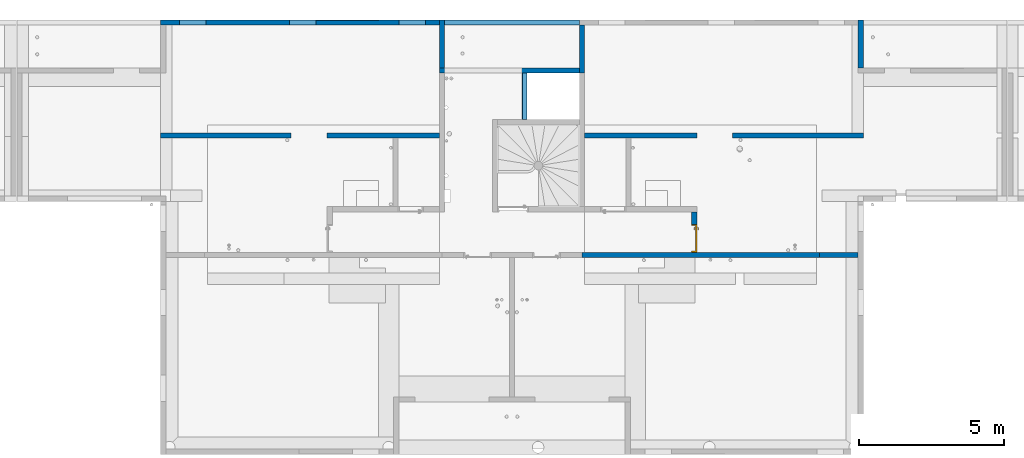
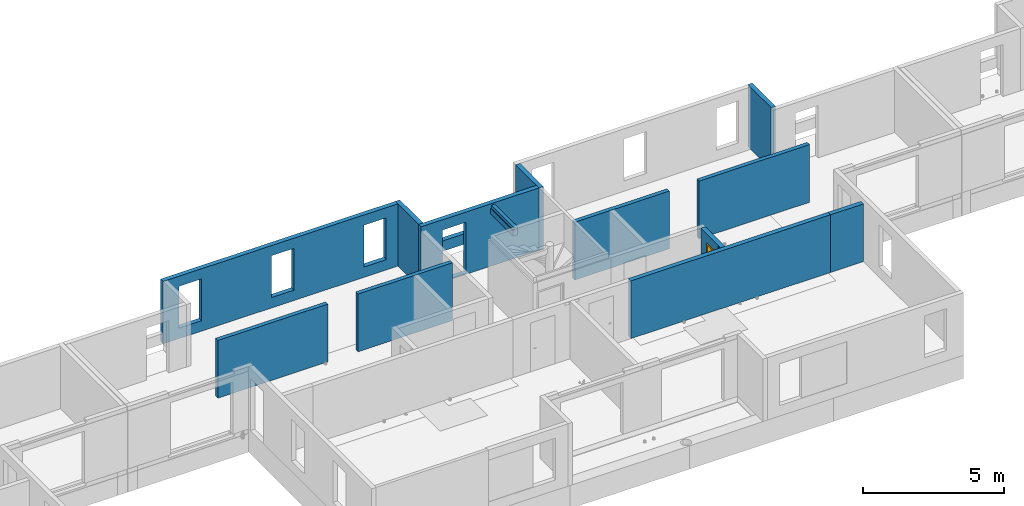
# One storey, part 12 of 34: 14 walls, 1 door, 10 openings.
"""IFC2X3 building model written with IfcOpenShell, lengths in centimetres."""

import ifcopenshell
import ifcopenshell.guid

model = None  # the IFC model being written
_history = None  # IfcOwnerHistory: only IFC2X3 demands one
_inside = {}  # id of a spatial element -> (the spatial element, [elements in it])
_under = {}  # id of a project, library or spatial element -> (it, [spatial elements below it])
_declared = {}  # id of a project -> (the project, [libraries it declares])
_typed = {}  # id of a type object -> (the type object, [elements of that type])
_made_of = {}  # id of a material, layer set ... -> (it, [elements and type objects made of it])


def new_model(schema):
    """Start an empty IFC model of exactly this schema.

    Asked for "IFC4X3", IfcOpenShell would pick the latest addendum, in which some entities
    have other attributes; the version numbers below select the first issue.
    IFC2X3 requires an IfcOwnerHistory on every rooted entity: one is made here for all.
    """
    global model, _history
    if schema == "IFC4X3":
        model = ifcopenshell.file(schema_version=(4, 3, 0, 0))
    else:
        model = ifcopenshell.file(schema=schema)
    _inside.clear()
    _under.clear()
    _declared.clear()
    _typed.clear()
    _made_of.clear()
    _history = None
    if model.schema == "IFC2X3":
        org = make("IfcOrganization", Name="unknown")
        user = make(
            "IfcPersonAndOrganization",
            ThePerson=make("IfcPerson", FamilyName="unknown"),
            TheOrganization=org,
        )
        app = make(
            "IfcApplication",
            ApplicationDeveloper=org,
            Version="unknown",
            ApplicationFullName="unknown",
            ApplicationIdentifier="unknown",
        )
        _history = make(
            "IfcOwnerHistory",
            OwningUser=user,
            OwningApplication=app,
            ChangeAction="ADDED",
            CreationDate=0,
        )
    return model


def make(cls, **values):
    """One entity of the class cls with the attributes given. An attribute that is None is left unset."""
    return model.create_entity(
        cls, **{name: value for name, value in values.items() if value is not None}
    )


def entity(cls, *values):
    """Any entity or typed value of the class cls, its attributes in the order of the schema. None: left unset."""
    e = model.create_entity(cls)
    for i, value in enumerate(values):
        if value is not None:
            e[i] = value
    return e


def rooted(cls, **values):
    """An entity with a GlobalId (a new one), such as an element, a storey or a relation."""
    return make(cls, GlobalId=ifcopenshell.guid.new(), OwnerHistory=_history, **values)


def si_unit(unit_type, name, prefix=None):
    """IfcSIUnit, for example si_unit("LENGTHUNIT", "METRE", prefix="MILLI")."""
    return make("IfcSIUnit", UnitType=unit_type, Prefix=prefix, Name=name)


def converted_unit(unit_type, name, factor, base, dimensions=None, offset=None):
    """IfcConversionBasedUnit, such as the inch: factor (a typed value) times the base unit."""
    return make(
        "IfcConversionBasedUnit"
        if offset is None
        else "IfcConversionBasedUnitWithOffset",
        ConversionOffset=offset,
        Dimensions=None
        if dimensions is None
        else entity("IfcDimensionalExponents", *dimensions),
        UnitType=unit_type,
        Name=name,
        ConversionFactor=make(
            "IfcMeasureWithUnit", ValueComponent=factor, UnitComponent=base
        ),
    )


def derived_unit(unit_type, elements):
    """IfcDerivedUnit: a product of units, each with its exponent."""
    return make(
        "IfcDerivedUnit",
        Elements=[
            make("IfcDerivedUnitElement", Unit=unit, Exponent=power)
            for unit, power in elements
        ],
        UnitType=unit_type,
    )


def assignment(units):
    """IfcUnitAssignment: the units of a project."""
    return None if units is None else make("IfcUnitAssignment", Units=units)


def point(xyz):
    """IfcCartesianPoint."""
    return None if xyz is None else make("IfcCartesianPoint", Coordinates=xyz)


def direction(xyz):
    """IfcDirection."""
    return None if xyz is None else make("IfcDirection", DirectionRatios=xyz)


def frame(location, z_axis=None, x_axis=None):
    """IfcAxis2Placement3D, a coordinate frame: its origin and axes. An axis left out is left unset."""
    return make(
        "IfcAxis2Placement3D",
        Location=point(location),
        Axis=direction(z_axis),
        RefDirection=direction(x_axis),
    )


def frame_2d(location, x_axis=None):
    """IfcAxis2Placement2D, a coordinate frame in the plane: its origin and x axis."""
    return make(
        "IfcAxis2Placement2D", Location=point(location), RefDirection=direction(x_axis)
    )


def origin():
    """The frame at (0, 0, 0) with its axes left unset."""
    return frame((0.0, 0.0, 0.0))


def place(relative_to, where):
    """IfcLocalPlacement: puts the frame where relative to a parent placement (None: the world)."""
    return make(
        "IfcLocalPlacement", PlacementRelTo=relative_to, RelativePlacement=where
    )


def context(
    kind, dimensions, precision=None, world=None, true_north=None, identifier=None
):
    """IfcGeometricRepresentationContext, for example the 3D "Model" context."""
    return make(
        "IfcGeometricRepresentationContext",
        ContextIdentifier=identifier,
        ContextType=kind,
        CoordinateSpaceDimension=dimensions,
        Precision=precision,
        WorldCoordinateSystem=world,
        TrueNorth=true_north,
    )


def subcontext(parent, identifier, kind, view, scale=None):
    """IfcGeometricRepresentationSubContext, for example "Body" below "Model"."""
    return make(
        "IfcGeometricRepresentationSubContext",
        ContextIdentifier=identifier,
        ContextType=kind,
        ParentContext=parent,
        TargetScale=scale,
        TargetView=view,
    )


def project(units=None, contexts=None):
    """IfcProject with its units and contexts."""
    return rooted(
        "IfcProject",
        Name="project",
        RepresentationContexts=contexts,
        UnitsInContext=assignment(units),
    )


def spatial(cls, under=None, at=None, **own):
    """A site, building, storey or space (cls), placed at a placement, below another one or the project."""
    s = rooted(cls, ObjectPlacement=at, **own)
    if under is not None:
        _under.setdefault(under.id(), (under, []))[1].append(s)
    return s


def polyline(points):
    """IfcPolyline through the points."""
    return make("IfcPolyline", Points=[point(p) for p in points])


def profile(cls, at=None, kind="AREA", **sizes):
    """A parametric profile (cls). Its sizes go by their IFC names, for example OverallWidth=200.0."""
    return make(cls, ProfileType=kind, Position=at, **sizes)


def rectangle(**sizes):
    """IfcRectangleProfileDef."""
    return profile("IfcRectangleProfileDef", **sizes)


def extrude(swept, where, along, depth):
    """IfcExtrudedAreaSolid: the profile swept, set in the frame where, extruded along a direction by depth."""
    return make(
        "IfcExtrudedAreaSolid",
        SweptArea=swept,
        Position=where,
        ExtrudedDirection=direction(along),
        Depth=depth,
    )


def clip(a, b, op="DIFFERENCE"):
    """IfcBooleanClippingResult: the solid a cut by the half space b."""
    return make(
        "IfcBooleanClippingResult", Operator=op, FirstOperand=a, SecondOperand=b
    )


def bounded_halfspace(plane, agree, where, boundary):
    """IfcPolygonalBoundedHalfSpace: a half space limited to a polygon's prism."""
    return make(
        "IfcPolygonalBoundedHalfSpace",
        BaseSurface=make("IfcPlane", Position=plane),
        AgreementFlag=agree,
        Position=where,
        PolygonalBoundary=boundary,
    )


def faces_of(points, faces, orient=None, outer=None):
    """IfcFace entities. A face is a list of loops; a loop is a list of indices into points, from 0.

    orient and outer hold one flag for each loop. By default every Orientation is true, the
    first loop of a face is its IfcFaceOuterBound and the others are IfcFaceBound.
    """
    made = []
    for i, loops in enumerate(faces):
        bounds = []
        for j, loop in enumerate(loops):
            is_outer = j == 0 if outer is None else outer[i][j]
            bounds.append(
                make(
                    "IfcFaceOuterBound" if is_outer else "IfcFaceBound",
                    Bound=make("IfcPolyLoop", Polygon=[points[k] for k in loop]),
                    Orientation=True if orient is None else orient[i][j],
                )
            )
        made.append(make("IfcFace", Bounds=bounds))
    return made


def faceted_brep(points, faces, orient=None, outer=None, voids=None):
    """IfcFacetedBrep: a solid bounded by flat faces; with voids (closed shells), ...WithVoids."""
    shared = [point(p) for p in points]
    hull = make("IfcClosedShell", CfsFaces=faces_of(shared, faces, orient, outer))
    if voids is None:
        return make("IfcFacetedBrep", Outer=hull)
    return make(
        "IfcFacetedBrepWithVoids",
        Outer=hull,
        Voids=[
            make(cls, CfsFaces=faces_of(shared, fs, o, b)) for cls, fs, o, b in voids
        ],
    )


def shape(context_of_items, identifier, shape_type, items):
    """IfcShapeRepresentation: the items that make up one representation, for example the "Body"."""
    return make(
        "IfcShapeRepresentation",
        ContextOfItems=context_of_items,
        RepresentationIdentifier=identifier,
        RepresentationType=shape_type,
        Items=items,
    )


def source(mapping_origin, context_of_items, identifier, shape_type, items):
    """IfcRepresentationMap: a shape defined once, which mapped items show again and again."""
    return make(
        "IfcRepresentationMap",
        MappingOrigin=mapping_origin,
        MappedRepresentation=shape(context_of_items, identifier, shape_type, items),
    )


def transform(
    local_origin,
    x_axis=None,
    y_axis=None,
    z_axis=None,
    scale=None,
    scale2=None,
    scale3=None,
    uniform=True,
):
    """IfcCartesianTransformationOperator3D, or its non-uniform kind. x_axis, y_axis, z_axis: its Axis1, 2, 3."""
    if uniform:
        return make(
            "IfcCartesianTransformationOperator3D",
            Axis1=direction(x_axis),
            Axis2=direction(y_axis),
            LocalOrigin=point(local_origin),
            Scale=scale,
            Axis3=direction(z_axis),
        )
    return make(
        "IfcCartesianTransformationOperator3DnonUniform",
        Axis1=direction(x_axis),
        Axis2=direction(y_axis),
        LocalOrigin=point(local_origin),
        Scale=scale,
        Axis3=direction(z_axis),
        Scale2=scale2,
        Scale3=scale3,
    )


def mapped(mapping_source, mapping_target):
    """IfcMappedItem: shows the shape of a source again, moved by a transform."""
    return make(
        "IfcMappedItem", MappingSource=mapping_source, MappingTarget=mapping_target
    )


def material(Name=None, Category=None):
    """IfcMaterial."""
    return make("IfcMaterial", Name=Name, Category=Category)


def material_list(materials):
    """IfcMaterialList."""
    return make("IfcMaterialList", Materials=materials)


def layer(
    of_material, thickness, ventilated=None, Name=None, Category=None, Priority=None
):
    """IfcMaterialLayer: one layer of a wall or slab, of a material (None: an air gap)."""
    return make(
        "IfcMaterialLayer",
        Material=of_material,
        LayerThickness=thickness,
        IsVentilated=ventilated,
        Name=Name,
        Category=Category,
        Priority=Priority,
    )


def layer_set(layers, Name=None):
    """IfcMaterialLayerSet."""
    return make("IfcMaterialLayerSet", MaterialLayers=layers, LayerSetName=Name)


def layer_usage(for_layer_set, set_direction, sense, offset, extent=None):
    """IfcMaterialLayerSetUsage: how a layer set lies in its element."""
    return make(
        "IfcMaterialLayerSetUsage",
        ForLayerSet=for_layer_set,
        LayerSetDirection=set_direction,
        DirectionSense=sense,
        OffsetFromReferenceLine=offset,
        ReferenceExtent=extent,
    )


def made_of(thing, what):
    """Note that an element or type object is made of a material, layer set ...; save() writes the relation."""
    if what is not None:
        _made_of.setdefault(what.id(), (what, []))[1].append(thing)
    return thing


def type_object(cls, material=None, **own):
    """A type object (cls), such as IfcWallType, which elements share."""
    return made_of(rooted(cls, **own), material)


def type_shapes(of_type, sources):
    """Give a type object the sources (RepresentationMaps) that its elements show as mapped items."""
    of_type.RepresentationMaps = sources


def element(
    cls,
    number,
    at=None,
    inside=None,
    cuts=None,
    type_object=None,
    material=None,
    context=None,
    identifier="Body",
    shape_type=None,
    held_by="IfcProductDefinitionShape",
    body=None,
    shapes=None,
    **own,
):
    """One element of the class cls, such as IfcWall. Its Tag is "e" and its number.

    at: its placement. inside: the storey or other place that contains it. cuts: it is an
    opening in that element (IfcRelVoidsElement). A single representation is given by context,
    identifier, shape_type and body (its items); several are given by shapes. held_by: the class
    of the entity that holds the representations. save() writes the other relations.
    """
    e = rooted(cls, Tag="e%d" % number, ObjectPlacement=at, **own)
    if body is not None:
        shapes = [shape(context, identifier, shape_type, body)]
    if shapes is not None:
        e.Representation = make(held_by, Representations=shapes)
    if inside is not None:
        _inside.setdefault(inside.id(), (inside, []))[1].append(e)
    if cuts is not None:
        rooted(
            "IfcRelVoidsElement", RelatingBuildingElement=cuts, RelatedOpeningElement=e
        )
    if type_object is not None:
        _typed.setdefault(type_object.id(), (type_object, []))[1].append(e)
    return made_of(e, material)


def fill(opening, filler):
    """IfcRelFillsElement: the door or window that sits in an opening."""
    return rooted(
        "IfcRelFillsElement",
        RelatingOpeningElement=opening,
        RelatedBuildingElement=filler,
    )


def aggregate(whole, parts):
    """IfcRelAggregates: a whole, such as a stair, and the parts it consists of."""
    return rooted("IfcRelAggregates", RelatingObject=whole, RelatedObjects=parts)


def save(model, path):
    """Write the relations noted so far, then the file.

    IfcRelAggregates (storeys below a building ...), IfcRelContainedInSpatialStructure (elements
    in a storey), IfcRelDefinesByType, IfcRelAssociatesMaterial and IfcRelDeclares: one each for
    every whole, place, type object, material and project.
    """
    for whole, parts in _under.values():
        aggregate(whole, parts)
    for where, things in _inside.values():
        rooted(
            "IfcRelContainedInSpatialStructure",
            RelatedElements=things,
            RelatingStructure=where,
        )
    for kind, things in _typed.values():
        rooted("IfcRelDefinesByType", RelatedObjects=things, RelatingType=kind)
    for what, things in _made_of.values():
        rooted("IfcRelAssociatesMaterial", RelatedObjects=things, RelatingMaterial=what)
    for by, libraries in _declared.values():
        rooted("IfcRelDeclares", RelatingContext=by, RelatedDefinitions=libraries)
    model.write(path)


model = new_model("IFC2X3")

# Units and contexts
model_context = context("Model", 3, precision=0.001, world=origin(), true_north=direction((6.12303176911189e-17, 1.0)))
body_context = subcontext(model_context, "Body", "Model", "MODEL_VIEW")
ifc_project = project(units=[si_unit("LENGTHUNIT", "METRE", prefix="CENTI"), si_unit("AREAUNIT", "SQUARE_METRE"), si_unit("VOLUMEUNIT", "CUBIC_METRE"), converted_unit("PLANEANGLEUNIT", "DEGREE", entity("IfcRatioMeasure", 0.0174532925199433), si_unit("PLANEANGLEUNIT", "RADIAN"), dimensions=[0, 0, 0, 0, 0, 0, 0]), si_unit("MASSUNIT", "GRAM", prefix="KILO"), derived_unit("MASSDENSITYUNIT", [(si_unit("MASSUNIT", "GRAM", prefix="KILO"), 1), (si_unit("LENGTHUNIT", "METRE"), -3)]), si_unit("TIMEUNIT", "SECOND"), si_unit("FREQUENCYUNIT", "HERTZ"), si_unit("THERMODYNAMICTEMPERATUREUNIT", "DEGREE_CELSIUS"), derived_unit("THERMALTRANSMITTANCEUNIT", [(si_unit("MASSUNIT", "GRAM", prefix="KILO"), 1), (si_unit("THERMODYNAMICTEMPERATUREUNIT", "KELVIN"), -1), (si_unit("TIMEUNIT", "SECOND"), -3)]), derived_unit("VOLUMETRICFLOWRATEUNIT", [(si_unit("LENGTHUNIT", "METRE"), 3), (si_unit("TIMEUNIT", "SECOND"), -1)]), si_unit("ELECTRICCURRENTUNIT", "AMPERE"), si_unit("ELECTRICVOLTAGEUNIT", "VOLT"), si_unit("POWERUNIT", "WATT"), si_unit("FORCEUNIT", "NEWTON"), si_unit("ILLUMINANCEUNIT", "LUX"), si_unit("LUMINOUSFLUXUNIT", "LUMEN"), si_unit("LUMINOUSINTENSITYUNIT", "CANDELA"), derived_unit("USERDEFINED", [(si_unit("MASSUNIT", "GRAM", prefix="KILO"), -1), (si_unit("LENGTHUNIT", "METRE"), -2), (si_unit("TIMEUNIT", "SECOND"), 3), (si_unit("LUMINOUSFLUXUNIT", "LUMEN"), 1)]), derived_unit("LINEARVELOCITYUNIT", [(si_unit("LENGTHUNIT", "METRE"), 1), (si_unit("TIMEUNIT", "SECOND"), -1)]), si_unit("PRESSUREUNIT", "PASCAL"), derived_unit("USERDEFINED", [(si_unit("LENGTHUNIT", "METRE"), -2), (si_unit("MASSUNIT", "GRAM", prefix="KILO"), 1), (si_unit("TIMEUNIT", "SECOND"), -2)])], contexts=[model_context])

# Site, building, storey
site_placement = place(None, origin())
site = spatial("IfcSite", under=ifc_project, at=site_placement, Name="Default", CompositionType="ELEMENT")
building_placement = place(site_placement, origin())
building = spatial("IfcBuilding", under=site, at=building_placement, Name="CAGE 03", CompositionType="ELEMENT")
storey_placement = place(building_placement, frame((0.0, 0.0, 340.0)))
storey = spatial("IfcBuildingStorey", under=building, at=storey_placement, Name="R+1", CompositionType="ELEMENT", Elevation=340.0)

# Walls
ifc_material_1 = material(Name="Béton, C25/30")
ifc_layer_1 = layer(ifc_material_1, 18.0)
ifc_layer_set_1 = layer_set([ifc_layer_1], Name="Mur de base:Voile BA 18")
ifc_layer_usage_1 = layer_usage(ifc_layer_set_1, "AXIS2", "POSITIVE", -9.0)
wall_type_1 = type_object("IfcWallType", Name="Mur de base:Voile BA 18", PredefinedType="STANDARD", material=ifc_layer_set_1)
wall_1_placement = place(storey_placement, frame((8283.36582014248, 5128.6606660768, 0.0), z_axis=(0.0, 0.0, 1.0), x_axis=(0.0, 1.0, 0.0)))
element("IfcWallStandardCase", 1, at=wall_1_placement, inside=storey, type_object=wall_type_1, material=ifc_layer_usage_1, Name="Mur de base:Voile BA 18", ObjectType="Mur de base:Voile BA 18", context=body_context, shape_type="SweptSolid", body=[
    extrude(rectangle(XDim=165.0, YDim=17.9999999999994, at=frame_2d((82.4999999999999, 0.0), x_axis=(-1.0, 0.0))), origin(), (0.0, 0.0, 1.0), 270.0),
])
ifc_layer_usage_2 = layer_usage(ifc_layer_set_1, "AXIS2", "POSITIVE", -9.0)
wall_2_placement = place(storey_placement, frame((7322.36582014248, 5275.6606660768, 0.0), z_axis=(0.0, 0.0, 1.0), x_axis=(0.0, -1.0, 0.0)))
element("IfcWallStandardCase", 2, at=wall_2_placement, inside=storey, type_object=wall_type_1, material=ifc_layer_usage_2, Name="Mur de base:Voile BA 18", ObjectType="Mur de base:Voile BA 18", context=body_context, shape_type="SweptSolid", body=[
    extrude(rectangle(XDim=165.0, YDim=17.9999999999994, at=frame_2d((82.4999999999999, -2.1582735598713e-13), x_axis=(-1.0, 0.0))), origin(), (0.0, 0.0, 1.0), 270.0),
])

# Wall, openings
ifc_layer_usage_3 = layer_usage(ifc_layer_set_1, "AXIS2", "POSITIVE", -9.0)
wall_3_placement = place(storey_placement, frame((7313.36582014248, 5119.6606660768, 0.0), z_axis=(0.0, 0.0, 1.0), x_axis=(-1.0, 0.0, 0.0)))
wall_3 = element("IfcWallStandardCase", 3, at=wall_3_placement, inside=storey, type_object=wall_type_1, material=ifc_layer_usage_3, Name="Mur de base:Voile BA 18", ObjectType="Mur de base:Voile BA 18", context=body_context, shape_type="SweptSolid", body=[
    extrude(rectangle(XDim=482.0, YDim=17.9999999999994, at=frame_2d((241.0, -1.90958360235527e-13), x_axis=(-1.0, 0.0))), origin(), (0.0, 0.0, 1.0), 270.0),
])
opening_1_placement = place(wall_3_placement, origin())
element("IfcOpeningElement", 4, at=opening_1_placement, cuts=wall_3, Name="Mur de base:Voile BA 18", ObjectType="Opening", context=body_context, shape_type="SweptSolid", body=[
    extrude(rectangle(XDim=227.0, YDim=18.0000000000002, at=frame_2d((4.33431068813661e-13, 0.0), x_axis=(0.0, 1.0))), frame((189.0, 9.0, 113.5), z_axis=(0.0, 1.0, 0.0), x_axis=(-1.0, 0.0, 0.0)), (0.0, 0.0, 1.0), 160.0),
])
opening_2_placement = place(wall_3_placement, frame((7313.36582014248, 5119.6606660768, 0.0), z_axis=(0.0, 0.0, 1.0), x_axis=(-1.0, 0.0, 0.0)))
element("IfcOpeningElement", 5, at=opening_2_placement, cuts=wall_3, Name="Mur de base:Voile BA 18", ObjectType="Opening", context=body_context, shape_type="SweptSolid", body=[
    extrude(rectangle(XDim=221.0, YDim=94.9999999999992, at=frame_2d((0.0, -5.6843418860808e-14), x_axis=(0.0, 1.0))), frame((6966.86582014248, 5263.0606660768, 115.5), z_axis=(0.0, -1.0, 0.0), x_axis=(1.0, 0.0, 0.0)), (0.0, 0.0, 1.0), 304.8),
])

# Wall
ifc_layer_usage_4 = layer_usage(ifc_layer_set_1, "AXIS2", "POSITIVE", -9.0)
wall_4_placement = place(storey_placement, frame((6840.36582014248, 5128.6606660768, 0.0), z_axis=(0.0, 0.0, 1.0), x_axis=(0.0, 1.0, 0.0)))
element("IfcWallStandardCase", 6, at=wall_4_placement, inside=storey, type_object=wall_type_1, material=ifc_layer_usage_4, Name="Mur de base:Voile BA 18", ObjectType="Mur de base:Voile BA 18", context=body_context, shape_type="SweptSolid", body=[
    extrude(rectangle(XDim=165.000000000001, YDim=17.9999999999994, at=frame_2d((82.5000000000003, 1.77635683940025e-15), x_axis=(-1.0, 0.0))), origin(), (0.0, 0.0, 1.0), 270.0),
])

# Wall, openings
ifc_layer_usage_5 = layer_usage(ifc_layer_set_1, "AXIS2", "POSITIVE", -9.0)
wall_5_placement = place(storey_placement, frame((6831.36582014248, 5284.6606660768, 0.0), z_axis=(0.0, 0.0, 1.0), x_axis=(-1.0, 0.0, 0.0)))
wall_5 = element("IfcWallStandardCase", 7, at=wall_5_placement, inside=storey, type_object=wall_type_1, material=ifc_layer_usage_5, Name="Mur de base:Voile BA 18", ObjectType="Mur de base:Voile BA 18", context=body_context, shape_type="SweptSolid", body=[
    extrude(rectangle(XDim=961.0, YDim=17.9999999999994, at=frame_2d((480.5, -1.03028696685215e-13), x_axis=(-1.0, 0.0))), origin(), (0.0, 0.0, 1.0), 270.0),
])
opening_3_placement = place(wall_5_placement, origin())
element("IfcOpeningElement", 8, at=opening_3_placement, cuts=wall_5, Name="Mur de base:Voile BA 18", ObjectType="Recess", context=body_context, shape_type="SweptSolid", body=[
    extrude(rectangle(XDim=181.0, YDim=218.0, at=frame_2d((-4.33431068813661e-13, 0.0), x_axis=(0.0, 1.0))), frame((317.0, -9.0, 135.5), z_axis=(0.0, 1.0, 0.0), x_axis=(1.0, 0.0, 0.0)), (0.0, 0.0, 1.0), 1.99999999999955),
])
opening_4_placement = place(wall_5_placement, frame((6831.36582014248, 5284.6606660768, 0.0), z_axis=(0.0, 0.0, 1.0), x_axis=(-1.0, 0.0, 0.0)))
element("IfcOpeningElement", 9, at=opening_4_placement, cuts=wall_5, Name="Mur de base:Voile BA 18", ObjectType="Opening", context=body_context, shape_type="SweptSolid", body=[
    extrude(rectangle(XDim=181.0, YDim=91.0000000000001, at=frame_2d((0.0, 0.0), x_axis=(0.0, 1.0))), frame((6359.86582014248, 5428.0606660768, 135.5), z_axis=(0.0, -1.0, 0.0), x_axis=(1.0, 0.0, 0.0)), (0.0, 0.0, 1.0), 304.8),
])
opening_5_placement = place(wall_5_placement, frame((6831.36582014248, 5284.6606660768, 0.0), z_axis=(0.0, 0.0, 1.0), x_axis=(-1.0, 0.0, 0.0)))
element("IfcOpeningElement", 10, at=opening_5_placement, cuts=wall_5, Name="Mur de base:Voile BA 18", ObjectType="Opening", context=body_context, shape_type="SweptSolid", body=[
    extrude(rectangle(XDim=181.0, YDim=91.0000000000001, at=frame_2d((0.0, 0.0), x_axis=(0.0, 1.0))), frame((5981.86582014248, 5428.0606660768, 135.5), z_axis=(0.0, -1.0, 0.0), x_axis=(1.0, 0.0, 0.0)), (0.0, 0.0, 1.0), 304.8),
])
opening_6_placement = place(wall_5_placement, frame((6831.36582014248, 5284.6606660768, 0.0), z_axis=(0.0, 0.0, 1.0), x_axis=(-1.0, 0.0, 0.0)))
element("IfcOpeningElement", 11, at=opening_6_placement, cuts=wall_5, Name="Mur de base:Voile BA 18", ObjectType="Opening", context=body_context, shape_type="SweptSolid", body=[
    extrude(rectangle(XDim=181.0, YDim=91.0000000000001, at=frame_2d((0.0, 0.0), x_axis=(0.0, 1.0))), frame((6737.86582014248, 5428.0606660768, 135.5), z_axis=(0.0, -1.0, 0.0), x_axis=(1.0, 0.0, 0.0)), (0.0, 0.0, 1.0), 304.8),
])

# Wall, opening
ifc_layer_usage_6 = layer_usage(ifc_layer_set_1, "AXIS2", "POSITIVE", -9.0)
wall_6_placement = place(storey_placement, frame((7124.36582014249, 5110.6606660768, 227.0), z_axis=(0.0, 0.0, 1.0), x_axis=(0.0, -1.0, 0.0)))
wall_6 = element("IfcWallStandardCase", 12, at=wall_6_placement, inside=storey, type_object=wall_type_1, material=ifc_layer_usage_6, Name="Mur de base:Voile BA 18", ObjectType="Mur de base:Voile BA 18", context=body_context, shape_type="Clipping", body=[
    clip(clip(extrude(rectangle(XDim=160.000000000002, YDim=17.9999999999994, at=frame_2d((80.0000000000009, 2.16715534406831e-13), x_axis=(-1.0, 0.0))), origin(), (0.0, 0.0, 1.0), 36.0), bounded_halfspace(frame((160.0, -6.0, 23.0), z_axis=(0.0, 0.0, -1.0), x_axis=(0.0, -1.0, 0.0)), True, frame((160.0, -6.0, 23.0), z_axis=(0.0, 0.0, -1.0), x_axis=(0.0, -1.0, 0.0)), polyline([(0.0, 0.0), (3.0, 0.0), (3.0, 160.0), (0.0, 160.0), (0.0, 0.0)]))), bounded_halfspace(frame((0.0, -6.0, 23.0), z_axis=(0.0, 1.0, 0.0), x_axis=(0.0, 0.0, 1.0)), True, frame((0.0, -6.0, 23.0), z_axis=(0.0, 1.0, 0.0), x_axis=(0.0, 0.0, 1.0)), polyline([(0.0, 0.0), (13.0, 0.0), (13.0, 160.0), (0.0, 160.0), (0.0, 0.0)]))),
])
opening_7_placement = place(wall_6_placement, frame((5110.6606660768, -7124.36582014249, -227.0), z_axis=(0.0, 0.0, 1.0), x_axis=(0.0, 1.0, 0.0)))
element("IfcOpeningElement", 13, at=opening_7_placement, cuts=wall_6, Name="Mur de base:Voile BA 18", ObjectType="Opening", context=body_context, shape_type="SweptSolid", body=[
    extrude(rectangle(XDim=227.0, YDim=160.0, at=frame_2d((0.0, 0.0), x_axis=(0.0, 1.0))), frame((6980.96582014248, 5030.6606660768, 113.5), z_axis=(1.0, 0.0, 0.0), x_axis=(0.0, 1.0, 0.0)), (0.0, 0.0, 1.0), 304.8),
])

# Wall, openings, door
ifc_layer_usage_7 = layer_usage(ifc_layer_set_1, "AXIS2", "NEGATIVE", 9.0)
wall_7_placement = place(storey_placement, frame((7709.36582014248, 4632.6606660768, 0.0), z_axis=(0.0, 0.0, 1.0), x_axis=(0.0, -1.0, 0.0)))
wall_7 = element("IfcWallStandardCase", 14, at=wall_7_placement, inside=storey, type_object=wall_type_1, material=ifc_layer_usage_7, Name="Mur de base:Voile BA 18", ObjectType="Mur de base:Voile BA 18", context=body_context, shape_type="SweptSolid", body=[
    extrude(rectangle(XDim=140.000000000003, YDim=17.9999999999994, at=frame_2d((70.0000000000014, 0.0), x_axis=(-1.0, 0.0))), origin(), (0.0, 0.0, 1.0), 250.0),
])
opening_8_placement = place(wall_7_placement, origin())
element("IfcOpeningElement", 15, at=opening_8_placement, cuts=wall_7, Name="Mur de base:Voile BA 18", ObjectType="Opening", context=body_context, shape_type="SweptSolid", body=[
    extrude(rectangle(XDim=10.0, YDim=19.9999999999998, at=frame_2d((4.33431068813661e-13, 5.41788836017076e-14), x_axis=(0.0, 1.0))), frame((130.0, -9.0, 242.5), z_axis=(0.0, 1.0, 0.0), x_axis=(1.0, 0.0, 0.0)), (0.0, 0.0, 1.0), 17.9999999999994),
])
opening_9_placement = place(wall_7_placement, frame((43.0, -9.0, 0.0)))
opening_9 = element("IfcOpeningElement", 16, at=opening_9_placement, cuts=wall_7, Name="Int. Simple:HB93:1", ObjectType="Opening", context=body_context, shape_type="SweptSolid", body=[
    extrude(rectangle(XDim=210.000000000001, YDim=96.9999999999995, at=frame_2d((105.000000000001, 48.4999999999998), x_axis=(1.0, 0.0))), frame((0.0, 0.0, 0.0), z_axis=(0.0, 1.0, 0.0), x_axis=(0.0, 0.0, 1.0)), (0.0, 0.0, 1.0), 18.0),
])
ifc_material_2 = material(Name="Finition Peinture - Blanc satiné")
ifc_material_3 = material(Name="Bois - Panneau de porte")
ifc_material_4 = material(Name="Bois - Cadre de porte")
ifc_material_list_1 = material_list([ifc_material_2, ifc_material_3, ifc_material_4])
ifc_material_list_2 = material_list([ifc_material_2, ifc_material_3, ifc_material_4])
door_style = type_object("IfcDoorStyle", Name="HB93", ConstructionType="NOTDEFINED", OperationType="SINGLE_SWING_RIGHT", ParameterTakesPrecedence=False, Sizeable=False, material=ifc_material_list_2)
shared_shape = source(origin(), body_context, "Body", "Brep", [
    faceted_brep([(96.5000000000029, -0.500000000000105, 87.0), (96.5000000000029, -0.500000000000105, 108.0), (95.535276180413, -0.500000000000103, 108.399601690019), (94.5000000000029, -0.500000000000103, 108.535898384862), (93.4647238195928, -0.500000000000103, 108.399601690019), (92.5000000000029, -0.500000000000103, 108.0), (92.5000000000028, -0.500000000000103, 87.0), (93.4647238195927, -0.500000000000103, 86.6003983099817), (94.5000000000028, -0.500000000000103, 86.464101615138), (95.5352761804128, -0.500000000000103, 86.6003983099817), (96.5000000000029, 0.0, 108.0), (96.5000000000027, 0.0, 87.0), (95.5352761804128, 0.0, 86.6003983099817), (94.5000000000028, 0.0, 86.464101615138), (93.4647238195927, 0.0, 86.6003983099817), (92.5000000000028, 0.0, 87.0), (92.5000000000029, 0.0, 108.0), (93.4647238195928, 0.0, 108.399601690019), (94.5000000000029, 0.0, 108.535898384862), (95.535276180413, 0.0, 108.399601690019)], [[[0, 1, 2, 3, 4, 5, 6, 7, 8, 9]], [[10, 11, 12, 13, 14, 15, 16, 17, 18, 19]], [[9, 12, 11, 0]], [[8, 13, 12, 9]], [[7, 14, 13, 8]], [[7, 6, 15, 14]], [[15, 6, 5, 16]], [[4, 17, 16, 5]], [[3, 18, 17, 4]], [[2, 19, 18, 3]], [[2, 1, 10, 19]], [[11, 10, 1, 0]]]),
    faceted_brep([(96.5000000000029, 4.0, 87.0), (96.5000000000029, 4.0, 108.0), (95.535276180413, 4.0, 108.399601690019), (94.5000000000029, 4.0, 108.535898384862), (93.4647238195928, 4.0, 108.399601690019), (92.500000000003, 4.0, 108.0), (92.5000000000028, 4.0, 87.0), (93.4647238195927, 4.0, 86.6003983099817), (94.5000000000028, 4.0, 86.464101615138), (95.5352761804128, 4.0, 86.6003983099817), (94.5000000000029, 4.49999999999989, 108.535898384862), (95.535276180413, 4.49999999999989, 108.399601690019), (96.5000000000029, 4.49999999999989, 108.0), (96.5000000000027, 4.49999999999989, 87.0), (95.5352761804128, 4.49999999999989, 86.6003983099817), (94.5000000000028, 4.49999999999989, 86.464101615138), (93.4647238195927, 4.49999999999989, 86.6003983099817), (92.5000000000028, 4.4999999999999, 87.0), (92.5000000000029, 4.4999999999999, 108.0), (93.4647238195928, 4.49999999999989, 108.399601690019)], [[[0, 1, 2, 3, 4, 5, 6, 7, 8, 9]], [[10, 11, 12, 13, 14, 15, 16, 17, 18, 19]], [[4, 19, 18, 5]], [[3, 10, 19, 4]], [[2, 11, 10, 3]], [[2, 1, 12, 11]], [[13, 12, 1, 0]], [[9, 14, 13, 0]], [[8, 15, 14, 9]], [[7, 16, 15, 8]], [[7, 6, 17, 16]], [[17, 6, 5, 18]]]),
    faceted_brep([(94.2974701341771, -0.500000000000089, 100.778044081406), (94.7025298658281, -0.500000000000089, 100.778044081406), (95.100000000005, -0.500000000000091, 100.699999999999), (95.100000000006, -0.500000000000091, 99.2999999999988), (94.7025298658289, -0.500000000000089, 99.221955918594), (94.297470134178, -0.500000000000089, 99.2219559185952), (93.9000000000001, -0.500000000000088, 99.3000000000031), (93.9000000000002, -0.500000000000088, 100.7), (94.7025298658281, -3.10045754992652, 100.778044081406), (95.1000000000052, -3.26509507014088, 100.7), (94.2974701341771, -2.93267631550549, 100.778044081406), (92.9298602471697, -4.30028620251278, 100.778044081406), (93.0976414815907, -4.70534593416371, 100.778044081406), (93.9000000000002, -2.76803879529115, 100.7), (93.9000000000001, -2.76803879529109, 99.3000000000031), (94.297470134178, -2.93267631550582, 99.2219559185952), (94.7025298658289, -3.10045754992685, 99.221955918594), (93.0976414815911, -4.70534593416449, 99.221955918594), (92.9298602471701, -4.30028620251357, 99.2219559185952), (95.100000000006, -3.26509507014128, 99.2999999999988), (93.2622790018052, -5.1028160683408, 100.7), (92.7652227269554, -3.90281606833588, 100.7), (92.7652227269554, -3.90281606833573, 99.3000000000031), (93.2622790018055, -5.10281606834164, 99.2999999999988), (84.4981359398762, -5.10281606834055, 100.7), (84.4981359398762, -4.70534593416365, 100.778044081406), (84.4981359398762, -4.30028620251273, 100.778044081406), (84.4981359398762, -3.90281606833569, 100.699999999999), (84.4981359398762, -3.90281606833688, 99.3000000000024), (84.4981359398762, -4.30028620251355, 99.2219559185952), (84.4981359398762, -4.70534593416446, 99.221955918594), (84.4981359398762, -5.10281606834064, 99.2999999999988), (88.7139980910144, -4.5028160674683, 100.78786867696), (89.2692302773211, -5.1028160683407, 100.7), (88.6316793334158, -3.90281606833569, 100.7), (88.631679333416, -3.90281606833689, 99.3000000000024), (88.7139981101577, -4.50281607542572, 99.2121313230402), (89.2692310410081, -5.10281606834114, 99.2999999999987)], [[[0, 1, 2, 3, 4, 5, 6, 7]], [[2, 1, 8, 9]], [[1, 0, 10, 11, 12, 8]], [[0, 7, 13, 10]], [[14, 13, 7, 6]], [[5, 15, 14, 6]], [[5, 4, 16, 17, 18, 15]], [[3, 19, 16, 4]], [[9, 19, 3, 2]], [[9, 8, 12, 20]], [[10, 13, 21, 11]], [[22, 21, 13, 14]], [[14, 15, 18, 22]], [[16, 19, 23, 17]], [[20, 23, 19, 9]], [[24, 25, 26, 27, 28, 29, 30, 31]], [[32, 25, 33]], [[33, 25, 24]], [[33, 20, 12]], [[11, 34, 32]], [[34, 11, 21]], [[27, 26, 34]], [[32, 26, 25]], [[32, 34, 26]], [[32, 33, 12]], [[11, 32, 12]], [[21, 22, 35, 28, 27, 34]], [[36, 29, 35]], [[30, 36, 37]], [[18, 35, 22]], [[29, 28, 35]], [[30, 37, 31]], [[37, 17, 23]], [[36, 17, 37]], [[36, 18, 17]], [[36, 35, 18]], [[29, 36, 30]], [[23, 20, 33, 24, 31, 37]]]),
    faceted_brep([(94.2974701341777, 4.49999999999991, 99.2219559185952), (94.7025298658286, 4.49999999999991, 99.221955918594), (95.1000000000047, 4.49999999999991, 99.2999999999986), (95.1000000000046, 4.49999999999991, 100.7), (94.7025298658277, 4.49999999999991, 100.778044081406), (94.2974701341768, 4.49999999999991, 100.778044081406), (93.8999999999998, 4.49999999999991, 100.7), (93.900000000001, 4.49999999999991, 99.3000000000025), (93.8999999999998, 6.7485204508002, 100.7), (93.8999999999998, 6.74852045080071, 99.3000000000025), (94.2974701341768, 6.91315797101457, 100.778044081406), (94.7025298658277, 7.0809392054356, 100.778044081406), (93.0838906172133, 8.69957845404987, 100.778044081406), (92.9161093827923, 8.29451872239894, 100.778044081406), (95.1000000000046, 7.24557672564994, 100.7), (95.1000000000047, 7.24557672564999, 99.2999999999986), (94.7025298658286, 7.08093920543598, 99.221955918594), (94.2974701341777, 6.91315797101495, 99.2219559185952), (92.9161093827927, 8.29451872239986, 99.2219559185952), (93.0838906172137, 8.69957845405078, 99.221955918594), (92.751471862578, 7.89704858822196, 100.7), (92.7514718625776, 7.89704858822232, 99.3000000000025), (93.2485281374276, 9.09704858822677, 100.7), (93.2485281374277, 9.09704858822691, 99.2999999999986), (84.4954216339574, 8.29451872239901, 100.778044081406), (84.4954216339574, 8.69957845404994, 100.778044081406), (84.4954216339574, 9.09704858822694, 100.7), (84.4954216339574, 9.09704858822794, 99.2999999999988), (84.4954216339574, 8.6995784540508, 99.221955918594), (84.4954216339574, 8.29451872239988, 99.2219559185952), (84.4954216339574, 7.89704858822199, 99.3000000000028), (84.4954216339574, 7.89704858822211, 100.7), (88.6234467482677, 7.89704858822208, 100.7), (88.6234479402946, 7.89704858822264, 99.3000000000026), (88.7057655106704, 8.49704858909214, 100.78786867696), (89.255479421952, 9.09704858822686, 100.7), (89.2554795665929, 9.09704858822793, 99.2999999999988), (88.7057654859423, 8.49704858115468, 99.2121313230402)], [[[0, 1, 2, 3, 4, 5, 6, 7]], [[8, 9, 7, 6]], [[5, 10, 8, 6]], [[5, 4, 11, 12, 13, 10]], [[3, 14, 11, 4]], [[14, 3, 2, 15]], [[2, 1, 16, 15]], [[1, 0, 17, 18, 19, 16]], [[0, 7, 9, 17]], [[20, 21, 9, 8]], [[8, 10, 13, 20]], [[14, 22, 12, 11]], [[23, 22, 14, 15]], [[15, 16, 19, 23]], [[17, 9, 21, 18]], [[24, 25, 26, 27, 28, 29, 30, 31]], [[21, 20, 32, 31, 30, 33]], [[34, 24, 32]], [[25, 34, 35]], [[13, 32, 20]], [[24, 31, 32]], [[25, 35, 26]], [[35, 12, 22]], [[34, 12, 35]], [[34, 13, 12]], [[34, 32, 13]], [[24, 34, 25]], [[22, 23, 36, 27, 26, 35]], [[37, 28, 36]], [[36, 28, 27]], [[36, 23, 19]], [[18, 33, 37]], [[33, 18, 21]], [[30, 29, 33]], [[37, 29, 28]], [[37, 33, 29]], [[37, 36, 19]], [[18, 37, 19]]]),
    faceted_brep([(100.500000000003, 4.0, 206.5), (100.500000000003, 4.0, 0.0), (10.5000000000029, 4.0, 0.0), (10.5000000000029, 4.0, 206.5), (100.500000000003, 0.0, 206.5), (10.5000000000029, 0.0, 206.5), (10.5000000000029, 0.0, 0.0), (100.500000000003, 0.0, 0.0)], [[[0, 1, 2, 3]], [[4, 5, 6, 7]], [[3, 5, 4, 0]], [[2, 6, 5, 3]], [[1, 7, 6, 2]], [[0, 4, 7, 1]]]),
    faceted_brep([(104.0, 0.0, 0.0), (100.500000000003, 0.0, 0.0), (100.500000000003, 4.0, 0.0), (99.0, 4.0, 0.0), (99.0, 18.0, 0.0), (104.0, 18.0, 0.0), (104.0, 18.0, 210.0), (104.0, 0.0, 210.0), (99.0, 18.0, 205.0), (12.0, 18.0, 205.0), (12.0, 18.0, 0.0), (7.0, 18.0, 0.0), (7.0, 18.0, 210.0), (99.0, 4.0, 205.0), (100.500000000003, 4.0, 206.5), (10.5000000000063, 4.0, 206.5), (10.5000000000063, 4.0, 0.0), (12.0, 4.0, 0.0), (12.0, 4.0, 205.0), (100.500000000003, 0.0, 206.5), (7.0, 0.0, 210.0), (7.0, 0.0, 0.0), (10.5000000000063, 0.0, 0.0), (10.5000000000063, 0.0, 206.5)], [[[0, 1, 2, 3, 4, 5]], [[5, 6, 7, 0]], [[4, 8, 9, 10, 11, 12, 6, 5]], [[3, 13, 8, 4]], [[2, 14, 15, 16, 17, 18, 13, 3]], [[1, 19, 14, 2]], [[0, 7, 20, 21, 22, 23, 19, 1]], [[12, 11, 21, 20]], [[21, 11, 10, 17, 16, 22]], [[18, 17, 10, 9]], [[23, 22, 16, 15]], [[6, 12, 20, 7]], [[13, 18, 9, 8]], [[19, 23, 15, 14]]]),
    faceted_brep([(102.500000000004, 18.0, 0.0), (102.500000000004, 18.5000000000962, 0.0), (105.500000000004, 18.5000000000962, 0.0), (105.500000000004, 18.0, 0.0), (105.500000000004, 18.0, 211.500000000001), (5.50000000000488, 18.0, 211.500000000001), (5.50000000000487, 18.0, 0.0), (8.50000000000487, 18.0, 0.0), (8.50000000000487, 18.0, 208.500000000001), (102.500000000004, 18.0, 208.500000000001), (105.500000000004, 18.5000000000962, 211.500000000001), (102.500000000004, 18.5000000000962, 208.500000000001), (8.50000000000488, 18.5000000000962, 208.500000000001), (8.50000000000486, 18.5000000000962, 0.0), (5.50000000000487, 18.5000000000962, 0.0), (5.50000000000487, 18.5000000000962, 211.500000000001)], [[[0, 1, 2, 3]], [[3, 4, 5, 6, 7, 8, 9, 0]], [[2, 10, 4, 3]], [[1, 11, 12, 13, 14, 15, 10, 2]], [[0, 9, 11, 1]], [[7, 6, 14, 13]], [[8, 7, 13, 12]], [[15, 14, 6, 5]], [[10, 15, 5, 4]], [[9, 8, 12, 11]]]),
    faceted_brep([(105.500000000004, -0.5, 0.0), (105.500000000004, -0.5, 211.500000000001), (5.50000000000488, -0.5, 211.500000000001), (5.50000000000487, -0.5, 0.0), (8.50000000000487, -0.5, 0.0), (8.50000000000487, -0.5, 208.500000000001), (102.500000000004, -0.5, 208.500000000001), (102.500000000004, -0.5, 0.0), (105.500000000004, 0.0, 0.0), (105.500000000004, 0.0, 211.500000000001), (102.500000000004, 0.0, 0.0), (102.500000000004, 0.0, 208.500000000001), (8.50000000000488, 0.0, 208.500000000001), (8.50000000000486, 0.0, 0.0), (5.50000000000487, 0.0, 0.0), (5.50000000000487, 0.0, 211.500000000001)], [[[0, 1, 2, 3, 4, 5, 6, 7]], [[8, 9, 1, 0]], [[10, 11, 12, 13, 14, 15, 9, 8]], [[7, 6, 11, 10]], [[5, 4, 13, 12]], [[15, 14, 3, 2]], [[9, 15, 2, 1]], [[6, 5, 12, 11]], [[4, 3, 14, 13]], [[7, 10, 8, 0]]]),
])
type_shapes(door_style, [shared_shape])
door_placement = place(opening_9_placement, frame((104.0, 18.0, 0.0), z_axis=(0.0, 0.0, 1.0), x_axis=(-1.0, 0.0, 0.0)))
door = element("IfcDoor", 17, at=door_placement, inside=storey, type_object=door_style, material=ifc_material_list_1, Name="Int. Simple:HB93", ObjectType="HB93", OverallHeight=210.000000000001, OverallWidth=96.9999999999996, context=body_context, shape_type="MappedRepresentation", body=[
    mapped(shared_shape, transform((0.0, 0.0, 0.0), scale=1.0)),
])
fill(opening_9, door)

# Walls
ifc_layer_usage_8 = layer_usage(ifc_layer_set_1, "AXIS2", "NEGATIVE", 9.0)
wall_8_placement = place(storey_placement, frame((6849.36582014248, 5284.6606660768, 0.0)))
element("IfcWallStandardCase", 18, at=wall_8_placement, inside=storey, type_object=wall_type_1, material=ifc_layer_usage_8, Name="Mur de base:Voile BA 18", ObjectType="Mur de base:Voile BA 18", context=body_context, shape_type="SweptSolid", body=[
    extrude(rectangle(XDim=464.0, YDim=17.9999999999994, at=frame_2d((232.0, -1.11910480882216e-13), x_axis=(-1.0, 0.0))), origin(), (0.0, 0.0, 1.0), 45.0),
])
ifc_layer_usage_9 = layer_usage(ifc_layer_set_1, "AXIS2", "NEGATIVE", 9.0)
wall_9_placement = place(storey_placement, frame((8140.36582014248, 4483.6606660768, 0.0)))
element("IfcWallStandardCase", 19, at=wall_9_placement, inside=storey, type_object=wall_type_1, material=ifc_layer_usage_9, Name="Mur de base:Voile BA 18", ObjectType="Mur de base:Voile BA 18", context=body_context, shape_type="SweptSolid", body=[
    extrude(rectangle(XDim=134.000000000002, YDim=17.9999999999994, at=frame_2d((67.0000000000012, -2.1405099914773e-13), x_axis=(-1.0, 0.0))), origin(), (0.0, 0.0, 1.0), 250.0),
])

# Wall, opening
ifc_layer_usage_10 = layer_usage(ifc_layer_set_1, "AXIS2", "NEGATIVE", 9.0)
wall_10_placement = place(storey_placement, frame((7322.36582014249, 4483.6606660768, 0.0)))
wall_10 = element("IfcWallStandardCase", 20, at=wall_10_placement, inside=storey, type_object=wall_type_1, material=ifc_layer_usage_10, Name="Mur de base:Voile BA 18", ObjectType="Mur de base:Voile BA 18", context=body_context, shape_type="SweptSolid", body=[
    extrude(rectangle(XDim=817.99999999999, YDim=17.9999999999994, at=frame_2d((408.999999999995, 3.73034936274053e-14), x_axis=(-1.0, 0.0))), origin(), (0.0, 0.0, 1.0), 250.0),
])
opening_10_placement = place(wall_10_placement, origin())
element("IfcOpeningElement", 21, at=opening_10_placement, cuts=wall_10, Name="Mur de base:Voile BA 18", ObjectType="Opening", context=body_context, shape_type="SweptSolid", body=[
    extrude(rectangle(XDim=210.000000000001, YDim=18.0000000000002, at=frame_2d((4.33431068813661e-13, -5.6843418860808e-14), x_axis=(0.0, 1.0))), frame((387.0, 9.0, 105.0), z_axis=(0.0, 1.0, 0.0), x_axis=(1.0, 0.0, 0.0)), (0.0, 0.0, 1.0), 96.9999999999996),
])

# Walls
ifc_layer_2 = layer(ifc_material_1, 16.0)
ifc_layer_set_2 = layer_set([ifc_layer_2], Name="Mur de base:Voile BA 16")
ifc_layer_usage_11 = layer_usage(ifc_layer_set_2, "AXIS2", "NEGATIVE", 8.0)
wall_type_2 = type_object("IfcWallType", Name="Mur de base:Voile BA 16", PredefinedType="STANDARD", material=ifc_layer_set_2)
wall_11_placement = place(storey_placement, frame((5870.36582014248, 4895.6606660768, 0.0)))
element("IfcWallStandardCase", 22, at=wall_11_placement, inside=storey, type_object=wall_type_2, material=ifc_layer_usage_11, Name="Mur de base:Voile BA 16", ObjectType="Mur de base:Voile BA 16", context=body_context, shape_type="SweptSolid", body=[
    extrude(rectangle(XDim=450.0, YDim=15.9999999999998, at=frame_2d((225.0, 2.1538326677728e-13), x_axis=(-1.0, 0.0))), origin(), (0.0, 0.0, 1.0), 250.0),
])
ifc_layer_usage_12 = layer_usage(ifc_layer_set_2, "AXIS2", "NEGATIVE", 8.0)
wall_12_placement = place(storey_placement, frame((6831.36582014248, 4895.6606660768, 0.0), z_axis=(0.0, 0.0, 1.0), x_axis=(-1.0, 0.0, 0.0)))
element("IfcWallStandardCase", 23, at=wall_12_placement, inside=storey, type_object=wall_type_2, material=ifc_layer_usage_12, Name="Mur de base:Voile BA 16", ObjectType="Mur de base:Voile BA 16", context=body_context, shape_type="SweptSolid", body=[
    extrude(rectangle(XDim=386.999999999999, YDim=15.9999999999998, at=frame_2d((193.5, 1.67421632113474e-13), x_axis=(-1.0, 0.0))), origin(), (0.0, 0.0, 1.0), 250.0),
])
ifc_layer_usage_13 = layer_usage(ifc_layer_set_2, "AXIS2", "NEGATIVE", 8.0)
wall_13_placement = place(storey_placement, frame((7331.36582014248, 4895.6606660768, 0.0)))
element("IfcWallStandardCase", 24, at=wall_13_placement, inside=storey, type_object=wall_type_2, material=ifc_layer_usage_13, Name="Mur de base:Voile BA 16", ObjectType="Mur de base:Voile BA 16", context=body_context, shape_type="SweptSolid", body=[
    extrude(rectangle(XDim=386.999999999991, YDim=15.9999999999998, at=frame_2d((193.499999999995, 3.01980662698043e-14), x_axis=(-1.0, 0.0))), origin(), (0.0, 0.0, 1.0), 250.0),
])
ifc_layer_usage_14 = layer_usage(ifc_layer_set_2, "AXIS2", "NEGATIVE", 8.0)
wall_14_placement = place(storey_placement, frame((7840.36582014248, 4895.6606660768, 0.0)))
element("IfcWallStandardCase", 25, at=wall_14_placement, inside=storey, type_object=wall_type_2, material=ifc_layer_usage_14, Name="Mur de base:Voile BA 16", ObjectType="Mur de base:Voile BA 16", context=body_context, shape_type="SweptSolid", body=[
    extrude(rectangle(XDim=451.999999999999, YDim=15.9999999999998, at=frame_2d((226.0, 3.28626015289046e-14), x_axis=(-1.0, 0.0))), origin(), (0.0, 0.0, 1.0), 250.0),
])

save(model, "model.ifc")
